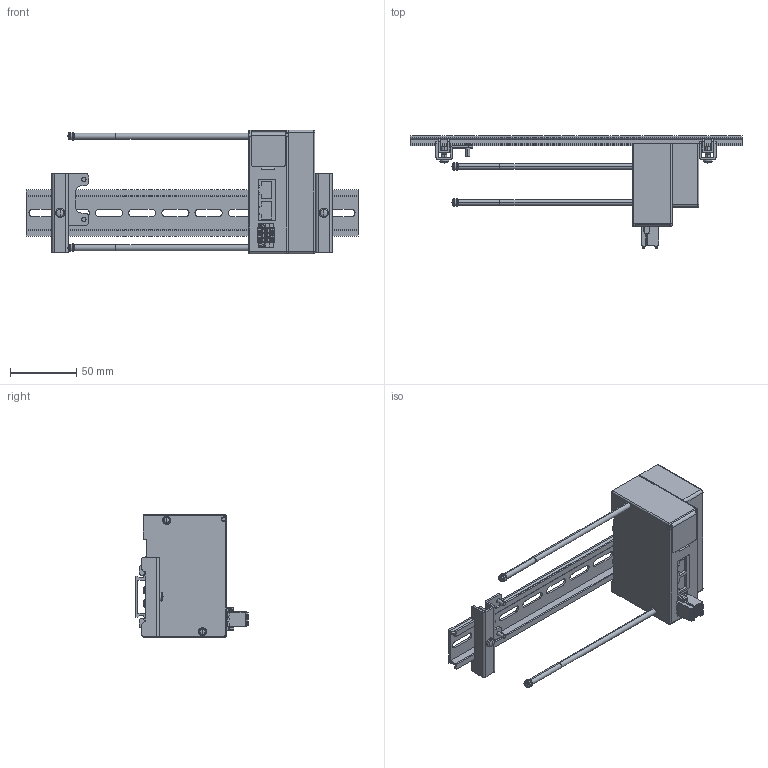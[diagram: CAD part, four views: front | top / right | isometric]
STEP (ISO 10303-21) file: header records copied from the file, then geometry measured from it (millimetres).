
FILE_DESCRIPTION( (''), '2;1');
FILE_NAME ('YS8EK3-6-DR.stp','2022-12-01T14:39:30',(''),(''),'spGate 12.6.6','','');
FILE_SCHEMA (('AUTOMOTIVE_DESIGN'));
Length unit declared in the file: millimetre
Products named in the file (4): Assembly; YS8EK3-6-DR-prt0; YS8EK3-6-DR-prt1; YS8EK3-6-DR-prt2
Assembly tree (4 placements, depth 2):
  Assembly
    YS8EK3-6-DR-prt0
    YS8EK3-6-DR-prt1
    YS8EK3-6-DR-prt2  x2
Bounding box: 250 x 84.4 x 93 mm (x, y, z)
Volume: 285812.9 mm3; surface area: 72549.5 mm2
Topology: 4 solids, 4 shells, 1039 faces, 2731 edges, 1753 vertices
Faces by surface type: plane 601, cylinder 332, bspline 90, sphere 16
Entity records: 47728 total; most frequent: CARTESIAN_POINT 6489, ORIENTED_EDGE 4740, DIRECTION 4482, COLOUR_RGB 3281, PRESENTATION_STYLE_ASSIGNMENT 3281, STYLED_ITEM 3281, EDGE_CURVE 2370, DRAUGHTING_PRE_DEFINED_CURVE_FONT 2370
